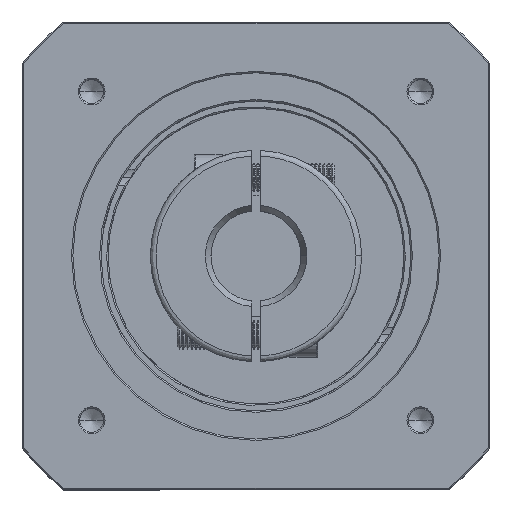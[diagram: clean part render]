
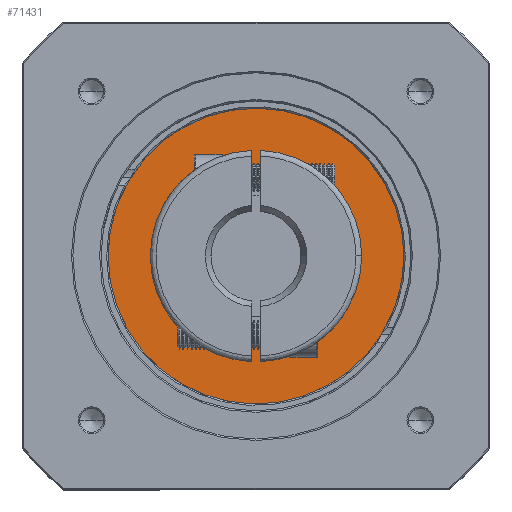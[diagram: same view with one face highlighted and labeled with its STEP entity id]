
A CAD part, top view. The second image highlights one B-rep face of the part: STEP entity #71431.
In plain terms, the highlighted planar face has unit normal (0, 0, 1).
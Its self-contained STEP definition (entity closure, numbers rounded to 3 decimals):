
#3245 = AXIS2_PLACEMENT_3D ( 'NONE', #87411, #86976, #76822 ) ;
#4029 = CIRCLE ( 'NONE', #3245, 52.5 ) ;
#5770 = DIRECTION ( 'NONE',  ( 0., 0., -1. ) ) ;
#10306 = FACE_OUTER_BOUND ( 'NONE', #92957, .T. ) ;
#11229 = CARTESIAN_POINT ( 'NONE',  ( -55.904, 80.326, -1.354 ) ) ;
#12000 = CARTESIAN_POINT ( 'NONE',  ( -108.404, 80.326, -1.354 ) ) ;
#12021 = AXIS2_PLACEMENT_3D ( 'NONE', #131885, #20528, #89996 ) ;
#14637 = ORIENTED_EDGE ( 'NONE', *, *, #129173, .T. ) ;
#16255 = CIRCLE ( 'NONE', #47509, 30.5 ) ;
#19185 = VERTEX_POINT ( 'NONE', #86312 ) ;
#20528 = DIRECTION ( 'NONE',  ( 0., 0., -1. ) ) ;
#22026 = VERTEX_POINT ( 'NONE', #42330 ) ;
#25427 = DIRECTION ( 'NONE',  ( -1., 0., 0. ) ) ;
#28500 = EDGE_CURVE ( 'NONE', #68279, #19185, #122105, .T. ) ;
#31832 = CARTESIAN_POINT ( 'NONE',  ( -108.404, 80.326, -1.354 ) ) ;
#34329 = PLANE ( 'NONE',  #131280 ) ;
#42330 = CARTESIAN_POINT ( 'NONE',  ( -108.404, 110.826, -1.354 ) ) ;
#42708 = DIRECTION ( 'NONE',  ( 0., 0., -1. ) ) ;
#47509 = AXIS2_PLACEMENT_3D ( 'NONE', #31832, #113304, #52270 ) ;
#48179 = AXIS2_PLACEMENT_3D ( 'NONE', #12000, #42708, #114381 ) ;
#50606 = ORIENTED_EDGE ( 'NONE', *, *, #28500, .F. ) ;
#52270 = DIRECTION ( 'NONE',  ( 0., 1., 0. ) ) ;
#56509 = CARTESIAN_POINT ( 'NONE',  ( -108.404, 80.326, -1.354 ) ) ;
#68279 = VERTEX_POINT ( 'NONE', #11229 ) ;
#69763 = EDGE_LOOP ( 'NONE', ( #83240, #14637 ) ) ;
#71431 = ADVANCED_FACE ( 'NONE', ( #105852, #10306 ), #34329, .F. ) ;
#76822 = DIRECTION ( 'NONE',  ( -1., 0., 0. ) ) ;
#81369 = EDGE_CURVE ( 'NONE', #22026, #99559, #92301, .T. ) ;
#83240 = ORIENTED_EDGE ( 'NONE', *, *, #81369, .T. ) ;
#86312 = CARTESIAN_POINT ( 'NONE',  ( -160.904, 80.326, -1.354 ) ) ;
#86976 = DIRECTION ( 'NONE',  ( 0., 0., -1. ) ) ;
#87411 = CARTESIAN_POINT ( 'NONE',  ( -108.404, 80.326, -1.354 ) ) ;
#89996 = DIRECTION ( 'NONE',  ( 0., 1., 0. ) ) ;
#92301 = CIRCLE ( 'NONE', #12021, 30.5 ) ;
#92957 = EDGE_LOOP ( 'NONE', ( #120055, #50606 ) ) ;
#99559 = VERTEX_POINT ( 'NONE', #106436 ) ;
#105852 = FACE_BOUND ( 'NONE', #69763, .T. ) ;
#106436 = CARTESIAN_POINT ( 'NONE',  ( -108.404, 49.826, -1.354 ) ) ;
#113304 = DIRECTION ( 'NONE',  ( 0., 0., -1. ) ) ;
#114381 = DIRECTION ( 'NONE',  ( -1., 0., 0. ) ) ;
#117989 = EDGE_CURVE ( 'NONE', #19185, #68279, #4029, .T. ) ;
#120055 = ORIENTED_EDGE ( 'NONE', *, *, #117989, .F. ) ;
#122105 = CIRCLE ( 'NONE', #48179, 52.5 ) ;
#129173 = EDGE_CURVE ( 'NONE', #99559, #22026, #16255, .T. ) ;
#131280 = AXIS2_PLACEMENT_3D ( 'NONE', #56509, #5770, #25427 ) ;
#131885 = CARTESIAN_POINT ( 'NONE',  ( -108.404, 80.326, -1.354 ) ) ;
